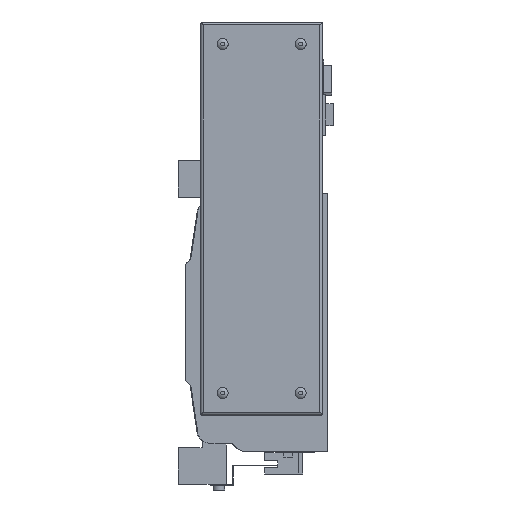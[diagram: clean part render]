
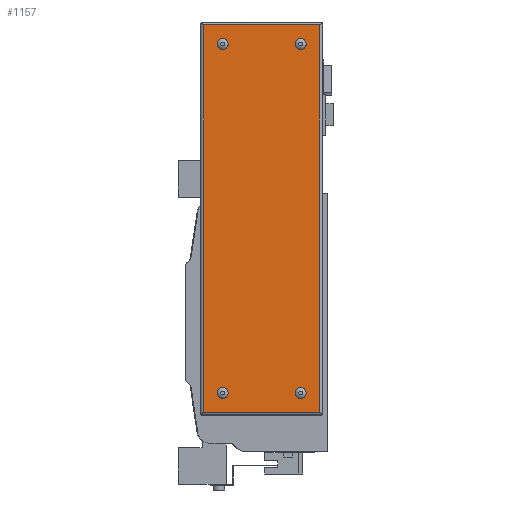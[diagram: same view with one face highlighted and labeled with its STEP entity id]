
A CAD part, left-side view. The second image highlights one B-rep face of the part: STEP entity #1157.
In plain terms, the highlighted planar face has unit normal (-1, 0, 0).
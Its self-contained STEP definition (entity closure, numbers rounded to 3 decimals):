
#1157 = ADVANCED_FACE( '', ( #2572, #2573, #2574, #2575, #2576 ), #2577, .F. );
#2572 = FACE_BOUND( '', #4355, .T. );
#2573 = FACE_BOUND( '', #4356, .T. );
#2574 = FACE_BOUND( '', #4357, .T. );
#2575 = FACE_BOUND( '', #4358, .T. );
#2576 = FACE_OUTER_BOUND( '', #4359, .T. );
#2577 = PLANE( '', #4360 );
#4355 = EDGE_LOOP( '', ( #7431 ) );
#4356 = EDGE_LOOP( '', ( #7432 ) );
#4357 = EDGE_LOOP( '', ( #7433 ) );
#4358 = EDGE_LOOP( '', ( #7434 ) );
#4359 = EDGE_LOOP( '', ( #7435, #7436, #7437, #7438 ) );
#4360 = AXIS2_PLACEMENT_3D( '', #7439, #7440, #7441 );
#7431 = ORIENTED_EDGE( '', *, *, #11433, .F. );
#7432 = ORIENTED_EDGE( '', *, *, #11434, .F. );
#7433 = ORIENTED_EDGE( '', *, *, #10652, .F. );
#7434 = ORIENTED_EDGE( '', *, *, #11249, .F. );
#7435 = ORIENTED_EDGE( '', *, *, #11062, .F. );
#7436 = ORIENTED_EDGE( '', *, *, #11435, .F. );
#7437 = ORIENTED_EDGE( '', *, *, #11436, .T. );
#7438 = ORIENTED_EDGE( '', *, *, #11437, .T. );
#7439 = CARTESIAN_POINT( '', ( -66., 0., 0. ) );
#7440 = DIRECTION( '', ( 1., 0., 0. ) );
#7441 = DIRECTION( '', ( 0., 0., -1. ) );
#10652 = EDGE_CURVE( '', #12814, #12814, #12815, .F. );
#11062 = EDGE_CURVE( '', #13503, #13505, #13506, .T. );
#11249 = EDGE_CURVE( '', #13791, #13791, #13792, .F. );
#11433 = EDGE_CURVE( '', #14060, #14060, #14061, .F. );
#11434 = EDGE_CURVE( '', #14062, #14062, #14063, .F. );
#11435 = EDGE_CURVE( '', #14064, #13503, #14065, .T. );
#11436 = EDGE_CURVE( '', #14064, #14066, #14067, .T. );
#11437 = EDGE_CURVE( '', #14066, #13505, #14068, .T. );
#12814 = VERTEX_POINT( '', #15870 );
#12815 = CIRCLE( '', #15871, 3.7 );
#13503 = VERTEX_POINT( '', #16836 );
#13505 = VERTEX_POINT( '', #16838 );
#13506 = LINE( '', #16839, #16840 );
#13791 = VERTEX_POINT( '', #17230 );
#13792 = CIRCLE( '', #17231, 3.7 );
#14060 = VERTEX_POINT( '', #17616 );
#14061 = CIRCLE( '', #17617, 3.7 );
#14062 = VERTEX_POINT( '', #17618 );
#14063 = CIRCLE( '', #17619, 3.7 );
#14064 = VERTEX_POINT( '', #17620 );
#14065 = LINE( '', #17621, #17622 );
#14066 = VERTEX_POINT( '', #17623 );
#14067 = LINE( '', #17624, #17625 );
#14068 = LINE( '', #17626, #17627 );
#15870 = CARTESIAN_POINT( '', ( -66., 71.5, 185.3 ) );
#15871 = AXIS2_PLACEMENT_3D( '', #19361, #19362, #19363 );
#16836 = CARTESIAN_POINT( '', ( -66., 5.5, 202. ) );
#16838 = CARTESIAN_POINT( '', ( -66., 5.5, -61. ) );
#16839 = CARTESIAN_POINT( '', ( -66., 5.5, 267. ) );
#16840 = VECTOR( '', #19833, 1000. );
#17230 = CARTESIAN_POINT( '', ( -66., 71.5, -51.7 ) );
#17231 = AXIS2_PLACEMENT_3D( '', #20050, #20051, #20052 );
#17616 = CARTESIAN_POINT( '', ( -66., 18.5, 185.3 ) );
#17617 = AXIS2_PLACEMENT_3D( '', #20212, #20213, #20214 );
#17618 = CARTESIAN_POINT( '', ( -66., 18.5, -51.7 ) );
#17619 = AXIS2_PLACEMENT_3D( '', #20215, #20216, #20217 );
#17620 = CARTESIAN_POINT( '', ( -66., 84.5, 202. ) );
#17621 = CARTESIAN_POINT( '', ( -66., 267., 202. ) );
#17622 = VECTOR( '', #20218, 1000. );
#17623 = CARTESIAN_POINT( '', ( -66., 84.5, -61. ) );
#17624 = CARTESIAN_POINT( '', ( -66., 84.5, 267. ) );
#17625 = VECTOR( '', #20219, 1000. );
#17626 = CARTESIAN_POINT( '', ( -66., 267., -61. ) );
#17627 = VECTOR( '', #20220, 1000. );
#19361 = CARTESIAN_POINT( '', ( -66., 71.5, 189. ) );
#19362 = DIRECTION( '', ( 1., 0., 0. ) );
#19363 = DIRECTION( '', ( 0., 0., -1. ) );
#19833 = DIRECTION( '', ( 0., 0., -1. ) );
#20050 = CARTESIAN_POINT( '', ( -66., 71.5, -48. ) );
#20051 = DIRECTION( '', ( 1., 0., 0. ) );
#20052 = DIRECTION( '', ( 0., 0., -1. ) );
#20212 = CARTESIAN_POINT( '', ( -66., 18.5, 189. ) );
#20213 = DIRECTION( '', ( 1., 0., 0. ) );
#20214 = DIRECTION( '', ( 0., 0., -1. ) );
#20215 = CARTESIAN_POINT( '', ( -66., 18.5, -48. ) );
#20216 = DIRECTION( '', ( 1., 0., 0. ) );
#20217 = DIRECTION( '', ( 0., 0., -1. ) );
#20218 = DIRECTION( '', ( 0., -1., 0. ) );
#20219 = DIRECTION( '', ( 0., 0., -1. ) );
#20220 = DIRECTION( '', ( 0., -1., 0. ) );
